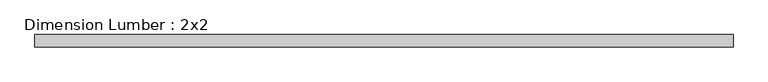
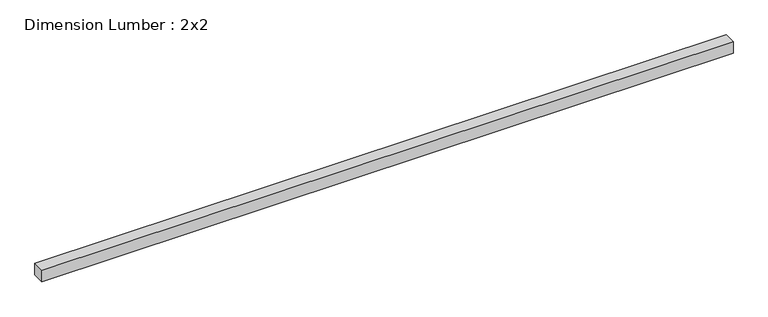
"""IFC4 building model written with IfcOpenShell, lengths in millimetres: beam geometry, Dimension Lumber : 2x2."""

from ifc_helpers import new_model, si_unit, frame, origin, place, context, project, spatial, polyline, outline, extrude, source, transform, mapped, element, save


def dimension_lumber_2x2_08950960(model_context):
    return source(origin(), model_context, "Body", "SweptSolid", [
        extrude(outline(polyline([(1085.85, 19.05), (1085.85, -19.05), (-1085.85, -19.05), (-1085.85, 19.05), (1085.85, 19.05)])), frame((0.0, 0.0, -19.05), z_axis=(0.0, 0.0, 1.0), x_axis=(1.0, 0.0, 0.0)), (0.0, 0.0, 1.0), 38.1),
    ])


if __name__ == "__main__":
    model = new_model("IFC4")
    model_context = context("Model", 3, world=origin())
    ifc_project = project(units=[si_unit("LENGTHUNIT", "METRE", prefix="MILLI")], contexts=[model_context])
    site = spatial("IfcSite", under=ifc_project)
    building = spatial("IfcBuilding", under=site)
    placement = place(None, origin())
    dimension_lumber_2x2_shape = dimension_lumber_2x2_08950960(model_context)
    element("IfcBeam", 1, ObjectType="Dimension Lumber : 2x2", at=placement, inside=building, context=model_context, shape_type="MappedRepresentation", body=[
        mapped(dimension_lumber_2x2_shape, transform((0.0, 0.0, 0.0), x_axis=(1.0, 0.0, 0.0), y_axis=(0.0, 1.0, 0.0), z_axis=(0.0, 0.0, 1.0))),
    ])
    save(model, "model.ifc")
